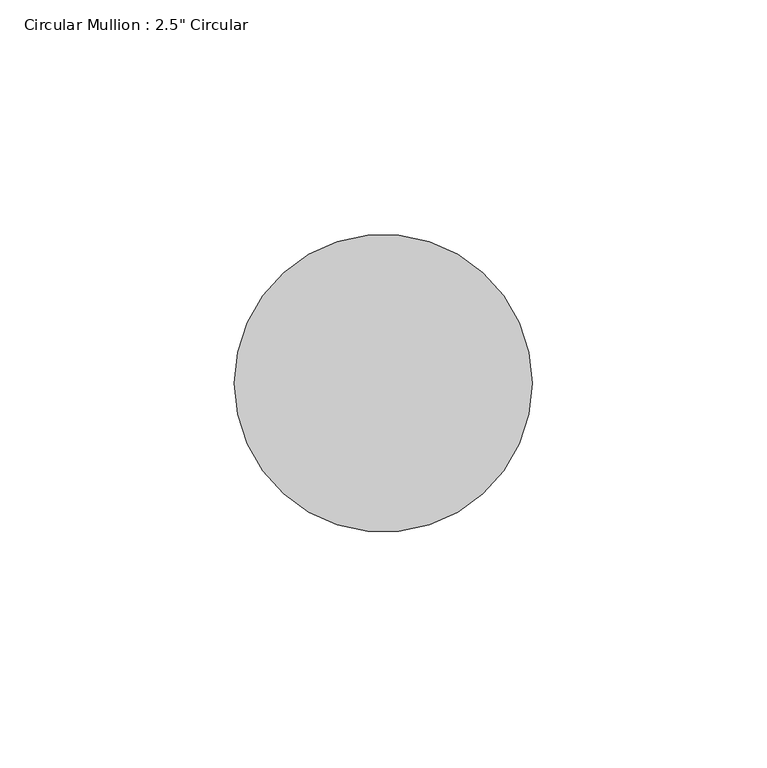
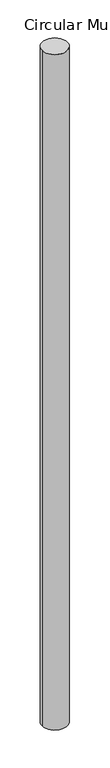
"""IFC4 building model written with IfcOpenShell, lengths in millimetres: member geometry."""

from ifc_helpers import new_model, si_unit, point, frame, frame_2d, origin, place, context, project, spatial, circle_curve, trimmed, segment, composite_curve, outline, extrude, source, transform, mapped, element, save


def member_51609e14(model_context):
    return source(origin(), model_context, "Body", "SweptSolid", [
        extrude(outline(composite_curve([segment(trimmed(circle_curve(frame_2d((-31.75, 0.0)), 31.75), [point((0.0, 0.0))], [point((-63.5, 0.0))], False, "CARTESIAN"), True, "CONTINUOUS"), segment(trimmed(circle_curve(frame_2d((-31.75, 0.0)), 31.75), [point((-63.5, 0.0))], [point((0.0, 0.0))], False, "CARTESIAN"), True, "CONTINUOUS")], self_intersect=False)), frame((0.0, 0.0, -1802.0382157), z_axis=(0.0, 0.0, 1.0), x_axis=(1.0, 0.0, 0.0)), (0.0, 0.0, 1.0), 1802.0382157),
    ])


if __name__ == "__main__":
    model = new_model("IFC4")
    model_context = context("Model", 3, world=origin())
    ifc_project = project(units=[si_unit("LENGTHUNIT", "METRE", prefix="MILLI")], contexts=[model_context])
    site = spatial("IfcSite", under=ifc_project)
    building = spatial("IfcBuilding", under=site)
    placement = place(None, origin())
    member_shape = member_51609e14(model_context)
    element("IfcMember", 1, ObjectType="Circular Mullion : 2.5\" Circular", at=placement, inside=building, context=model_context, shape_type="MappedRepresentation", body=[
        mapped(member_shape, transform((0.0, 0.0, 0.0), x_axis=(1.0, 0.0, 0.0), y_axis=(0.0, 1.0, 0.0), z_axis=(0.0, 0.0, 1.0))),
    ])
    save(model, "model.ifc")
